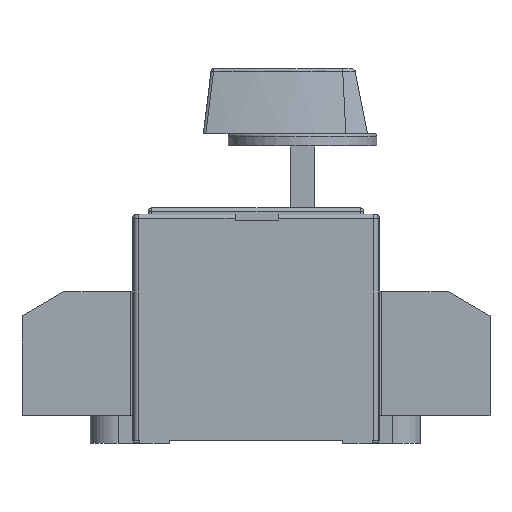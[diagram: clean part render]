
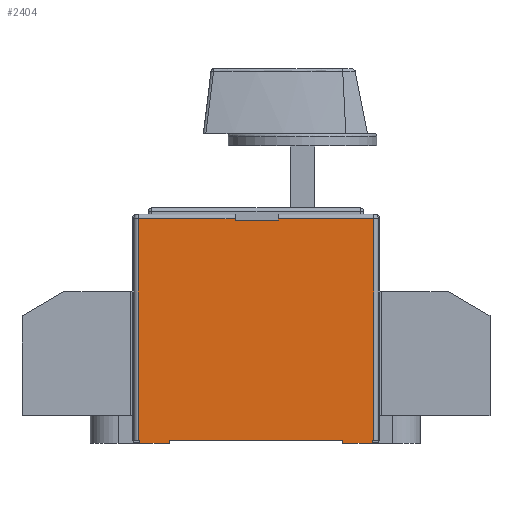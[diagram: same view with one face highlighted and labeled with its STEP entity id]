
A CAD part, left-side view. The second image highlights one B-rep face of the part: STEP entity #2404.
In plain terms, the highlighted planar face has unit normal (-1, 0, 0).
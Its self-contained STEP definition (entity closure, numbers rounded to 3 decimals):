
#411=LINE('',#12809,#1407);
#543=LINE('',#13154,#1539);
#555=LINE('',#13188,#1551);
#669=LINE('',#13435,#1665);
#672=LINE('',#13441,#1668);
#673=LINE('',#13445,#1669);
#674=LINE('',#13447,#1670);
#675=LINE('',#13449,#1671);
#676=LINE('',#13451,#1672);
#677=LINE('',#13453,#1673);
#678=LINE('',#13455,#1674);
#679=LINE('',#13456,#1675);
#680=LINE('',#13458,#1676);
#681=LINE('',#13459,#1677);
#682=LINE('',#13461,#1678);
#683=LINE('',#13463,#1679);
#1407=VECTOR('',#10163,1.);
#1539=VECTOR('',#10407,1.);
#1551=VECTOR('',#10433,1.);
#1665=VECTOR('',#10653,1.);
#1668=VECTOR('',#10660,1.);
#1669=VECTOR('',#10665,1.);
#1670=VECTOR('',#10666,1.);
#1671=VECTOR('',#10667,1.);
#1672=VECTOR('',#10668,1.);
#1673=VECTOR('',#10669,1.);
#1674=VECTOR('',#10670,1.);
#1675=VECTOR('',#10671,1.);
#1676=VECTOR('',#10672,1.);
#1677=VECTOR('',#10673,1.);
#1678=VECTOR('',#10674,1.);
#1679=VECTOR('',#10675,1.);
#2404=ADVANCED_FACE('',(#3224),#2899,.F.);
#2899=PLANE('',#9387);
#3224=FACE_OUTER_BOUND('',#3695,.T.);
#3695=EDGE_LOOP('',(#4662,#4663,#4664,#4665,#4666,#4667,#4668,#4669,#4670,
#4671,#4672,#4673,#4674,#4675,#4676,#4677));
#4662=ORIENTED_EDGE('',*,*,#8027,.F.);
#4663=ORIENTED_EDGE('',*,*,#8028,.T.);
#4664=ORIENTED_EDGE('',*,*,#8029,.T.);
#4665=ORIENTED_EDGE('',*,*,#8030,.F.);
#4666=ORIENTED_EDGE('',*,*,#8031,.T.);
#4667=ORIENTED_EDGE('',*,*,#8032,.T.);
#4668=ORIENTED_EDGE('',*,*,#8025,.T.);
#4669=ORIENTED_EDGE('',*,*,#7877,.T.);
#4670=ORIENTED_EDGE('',*,*,#8022,.F.);
#4671=ORIENTED_EDGE('',*,*,#8033,.F.);
#4672=ORIENTED_EDGE('',*,*,#8034,.T.);
#4673=ORIENTED_EDGE('',*,*,#7712,.T.);
#4674=ORIENTED_EDGE('',*,*,#8035,.F.);
#4675=ORIENTED_EDGE('',*,*,#8036,.F.);
#4676=ORIENTED_EDGE('',*,*,#8037,.T.);
#4677=ORIENTED_EDGE('',*,*,#7893,.T.);
#6863=VERTEX_POINT('',#12808);
#6864=VERTEX_POINT('',#12810);
#7020=VERTEX_POINT('',#13153);
#7021=VERTEX_POINT('',#13155);
#7032=VERTEX_POINT('',#13181);
#7035=VERTEX_POINT('',#13187);
#7115=VERTEX_POINT('',#13434);
#7117=VERTEX_POINT('',#13442);
#7118=VERTEX_POINT('',#13446);
#7119=VERTEX_POINT('',#13448);
#7120=VERTEX_POINT('',#13450);
#7121=VERTEX_POINT('',#13452);
#7122=VERTEX_POINT('',#13454);
#7123=VERTEX_POINT('',#13457);
#7124=VERTEX_POINT('',#13460);
#7125=VERTEX_POINT('',#13462);
#7712=EDGE_CURVE('',#6864,#6863,#411,.T.);
#7877=EDGE_CURVE('',#7021,#7020,#543,.T.);
#7893=EDGE_CURVE('',#7032,#7035,#555,.T.);
#8022=EDGE_CURVE('',#7115,#7020,#669,.T.);
#8025=EDGE_CURVE('',#7117,#7021,#672,.T.);
#8027=EDGE_CURVE('',#7118,#7035,#673,.T.);
#8028=EDGE_CURVE('',#7118,#7119,#674,.T.);
#8029=EDGE_CURVE('',#7119,#7120,#675,.T.);
#8030=EDGE_CURVE('',#7121,#7120,#676,.T.);
#8031=EDGE_CURVE('',#7121,#7122,#677,.T.);
#8032=EDGE_CURVE('',#7122,#7117,#678,.T.);
#8033=EDGE_CURVE('',#7123,#7115,#679,.T.);
#8034=EDGE_CURVE('',#7123,#6864,#680,.T.);
#8035=EDGE_CURVE('',#7124,#6863,#681,.T.);
#8036=EDGE_CURVE('',#7125,#7124,#682,.T.);
#8037=EDGE_CURVE('',#7125,#7032,#683,.T.);
#9387=AXIS2_PLACEMENT_3D('',#13464,#10676,#10677);
#10163=DIRECTION('',(0.,-1.,0.));
#10407=DIRECTION('',(0.,-1.,0.));
#10433=DIRECTION('',(0.,-1.,0.));
#10653=DIRECTION('',(0.,0.,1.));
#10660=DIRECTION('',(0.,0.,-1.));
#10665=DIRECTION('',(0.,0.,-1.));
#10666=DIRECTION('',(0.,1.,0.));
#10667=DIRECTION('',(0.,0.,-1.));
#10668=DIRECTION('',(0.,-1.,0.));
#10669=DIRECTION('',(0.,0.,1.));
#10670=DIRECTION('',(0.,1.,0.));
#10671=DIRECTION('',(0.,1.,0.));
#10672=DIRECTION('',(0.,0.,1.));
#10673=DIRECTION('',(0.,0.,1.));
#10674=DIRECTION('',(0.,1.,0.));
#10675=DIRECTION('',(0.,0.,1.));
#10676=DIRECTION('',(1.,0.,0.));
#10677=DIRECTION('',(0.,0.,-1.));
#12808=CARTESIAN_POINT('',(-69.,-52.735,-3.9));
#12809=CARTESIAN_POINT('',(-69.,-62.235,-3.9));
#12810=CARTESIAN_POINT('',(-69.,3.265,-3.9));
#13153=CARTESIAN_POINT('',(-69.,12.765,-3.9));
#13154=CARTESIAN_POINT('',(-69.,-62.235,-3.9));
#13155=CARTESIAN_POINT('',(-69.,13.265,-3.9));
#13181=CARTESIAN_POINT('',(-69.,-62.235,-3.9));
#13187=CARTESIAN_POINT('',(-69.,-62.735,-3.9));
#13188=CARTESIAN_POINT('',(-69.,-62.235,-3.9));
#13434=CARTESIAN_POINT('',(-69.,12.765,-4.9));
#13435=CARTESIAN_POINT('',(-69.,12.765,-5.9));
#13441=CARTESIAN_POINT('',(-69.,13.265,69.1));
#13442=CARTESIAN_POINT('',(-69.,13.265,67.6));
#13445=CARTESIAN_POINT('',(-69.,-62.735,69.1));
#13446=CARTESIAN_POINT('',(-69.,-62.735,67.6));
#13447=CARTESIAN_POINT('',(-69.,13.265,67.6));
#13448=CARTESIAN_POINT('',(-69.,-31.985,67.6));
#13449=CARTESIAN_POINT('',(-69.,-31.985,69.1));
#13450=CARTESIAN_POINT('',(-69.,-31.985,67.));
#13451=CARTESIAN_POINT('',(-69.,12.765,67.));
#13452=CARTESIAN_POINT('',(-69.,-17.985,67.));
#13453=CARTESIAN_POINT('',(-69.,-17.985,69.1));
#13454=CARTESIAN_POINT('',(-69.,-17.985,67.6));
#13455=CARTESIAN_POINT('',(-69.,13.265,67.6));
#13456=CARTESIAN_POINT('',(-69.,3.265,-4.9));
#13457=CARTESIAN_POINT('',(-69.,3.265,-4.9));
#13458=CARTESIAN_POINT('',(-69.,3.265,-5.9));
#13459=CARTESIAN_POINT('',(-69.,-52.735,-5.9));
#13460=CARTESIAN_POINT('',(-69.,-52.735,-4.9));
#13461=CARTESIAN_POINT('',(-69.,-62.235,-4.9));
#13462=CARTESIAN_POINT('',(-69.,-62.235,-4.9));
#13463=CARTESIAN_POINT('',(-69.,-62.235,-5.9));
#13464=CARTESIAN_POINT('',(-69.,-62.235,69.1));
